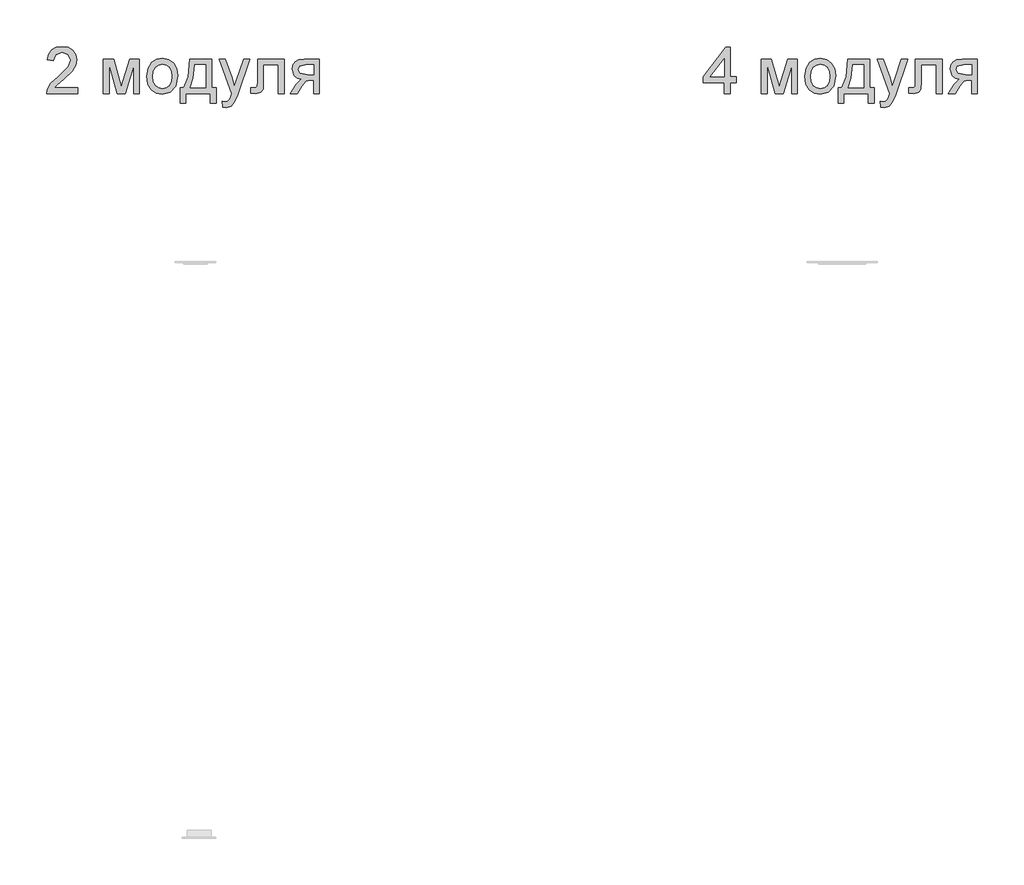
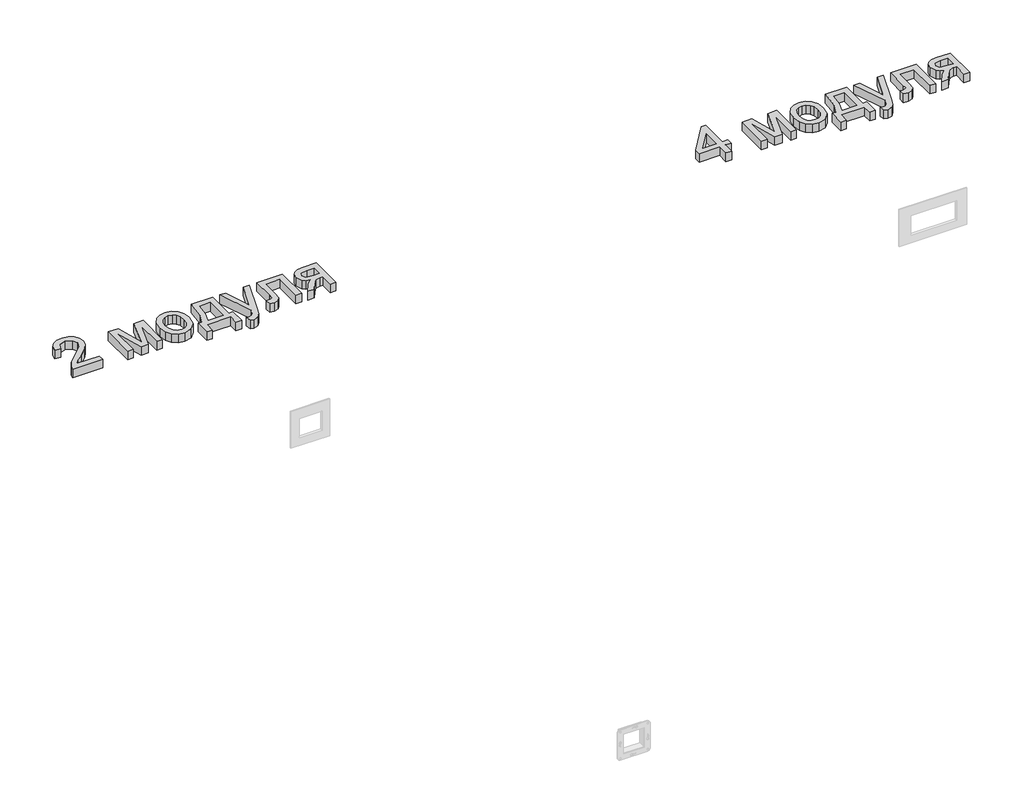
# One storey, part 48 of 48: 2 proxies.
"""IFC4 building model written with IfcOpenShell, lengths in millimetres."""

from ifc_helpers import new_model, si_unit, origin, origin_with_axes, place, context, project, spatial, polyline, outline, extrude, element, save

model = new_model("IFC4")

# Units and contexts
model_context = context("Model", 3, world=origin())
ifc_project = project(units=[si_unit("LENGTHUNIT", "METRE", prefix="MILLI")], contexts=[model_context])

# Site, building, storey
site = spatial("IfcSite", under=ifc_project)
building = spatial("IfcBuilding", under=site)
storey = spatial("IfcBuildingStorey", under=building, Name="Этаж 01", Elevation=0.0)

# Proxies
placement = place(None, origin())
element("IfcBuildingElementProxy", 1, Name="100 мм Arial", ObjectType="100 мм Arial", at=placement, inside=storey, context=model_context, shape_type="SweptSolid", body=[
    extrude(outline(polyline([(77045.8481443, 4264.0826436), (77045.8481443, 4251.5256049), (76979.9236908, 4251.5256049), (76981.2725914, 4260.1830945), (76988.9000115, 4273.5126854), (77004.6208354, 4288.0685497), (77026.3013476, 4308.9887725), (77031.7214757, 4323.213543), (77026.607916, 4334.7282494), (77013.2537995, 4339.4248762), (76999.3355974, 4334.838614), (76994.0503594, 4322.1589479), (76981.4933206, 4323.7285778), (76984.5375441, 4335.874815), (76991.1195662, 4344.7469024), (77000.8960302, 4350.1731619), (77013.5235797, 4351.981915), (77026.2430997, 4349.9708268), (77036.0011696, 4343.9375621), (77042.2091783, 4334.9244532), (77044.2785145, 4323.9738324), (77042.046697, 4312.0667185), (77034.6277435, 4299.7549344), (77016.6383139, 4282.5503198), (77002.1928142, 4270.4715276), (76996.5274315, 4264.0826436), (77045.8481443, 4264.0826436)])), origin_with_axes(), (0.0, 0.0, 1.0), 20.0),
    extrude(outline(polyline([(77100.7851889, 4325.2982076), (77122.3921248, 4325.2982076), (77139.0449164, 4266.2408847), (77156.9975578, 4325.2982076), (77177.6970514, 4325.2982076), (77177.6970514, 4251.5256049), (77165.1400126, 4251.5256049), (77165.1400126, 4310.9262844), (77147.0892694, 4251.5256049), (77130.608156, 4251.5256049), (77113.3422277, 4313.7712384), (77113.3422277, 4251.5256049), (77100.7851889, 4251.5256049), (77100.7851889, 4325.2982076)])), origin_with_axes(), (0.0, 0.0, 1.0), 20.0),
    extrude(outline(polyline([(77193.3933499, 4288.4119062), (77196.1095453, 4306.1990007), (77204.2581314, 4318.7008572), (77214.3258354, 4324.8260924), (77226.3801021, 4326.8678375), (77239.5717373, 4324.3815683), (77250.1084908, 4316.9227609), (77257.0154752, 4305.0800263), (77259.3178034, 4289.4419758), (77255.246576, 4267.099276), (77243.388513, 4254.4563981), (77226.3801021, 4249.955975), (77213.0290513, 4252.4330471), (77202.5045606, 4259.8642634), (77195.6711525, 4271.9553183), (77193.3933499, 4288.4119062)]), holes=[polyline([(77205.9503886, 4288.4364317), (77207.4035225, 4277.0719437), (77211.7629241, 4268.9754742), (77218.3234864, 4264.1286289), (77226.3801021, 4262.5130138), (77234.3999296, 4264.1378259), (77240.9482291, 4269.0122624), (77245.3076307, 4277.2160309), (77246.7607646, 4288.8288392), (77245.2984337, 4299.8622333), (77240.9114409, 4307.8483383), (77234.3539443, 4312.6951836), (77226.3801021, 4314.3107987), (77218.3234864, 4312.701315), (77211.7629241, 4307.8728638), (77207.4035225, 4299.7947883), (77205.9503886, 4288.4364317)])]), origin_with_axes(), (0.0, 0.0, 1.0), 20.0),
    extrude(outline(polyline([(77284.4318809, 4325.2982076), (77331.5207763, 4325.2982076), (77331.5207763, 4264.0826436), (77340.9385554, 4264.0826436), (77340.9385554, 4231.1204169), (77328.3815166, 4231.1204169), (77328.3815166, 4251.5256049), (77276.5837317, 4251.5256049), (77276.5837317, 4231.1204169), (77264.0266929, 4231.1204169), (77264.0266929, 4264.0826436), (77271.8748422, 4264.0826436), (77281.5746641, 4288.0317615), (77284.4318809, 4325.2982076)]), holes=[polyline([(77295.4192899, 4312.7411689), (77292.4762339, 4284.1322124), (77286.0015108, 4264.0826436), (77318.9637375, 4264.0826436), (77318.9637375, 4312.7411689), (77295.4192899, 4312.7411689)])]), origin_with_axes(), (0.0, 0.0, 1.0), 20.0),
    extrude(outline(polyline([(77355.065224, 4223.2722676), (77353.4955942, 4235.3633225), (77359.8722154, 4234.2596766), (77365.8319037, 4235.6453654), (77369.4861982, 4239.5081264), (77372.9197635, 4248.7542272), (77373.9007822, 4251.795385), (77347.2170748, 4325.2982076), (77360.4608266, 4325.2982076), (77374.6120207, 4284.3406788), (77379.5416394, 4267.9576673), (77384.4712581, 4282.4276925), (77399.0148597, 4325.2982076), (77412.1605097, 4325.2982076), (77386.4823464, 4249.7597713), (77379.8114195, 4233.3767598), (77372.527356, 4224.5230664), (77362.741695, 4221.7026378), (77355.065224, 4223.2722676)])), origin_with_axes(), (0.0, 0.0, 1.0), 20.0),
    extrude(outline(polyline([(77428.8378268, 4325.2982076), (77485.3445012, 4325.2982076), (77485.3445012, 4251.5991813), (77472.7874625, 4251.5991813), (77472.7874625, 4312.7411689), (77441.3948655, 4312.7411689), (77441.3948655, 4277.5471247), (77440.5487369, 4261.3112659), (77435.9011611, 4254.4563981), (77424.9137522, 4251.5256049), (77414.7111582, 4252.163267), (77414.7111582, 4264.0826436), (77420.3274899, 4264.0826436), (77426.0051354, 4264.8551958), (77428.273741, 4267.3077425), (77428.8378268, 4278.2583632), (77428.8378268, 4325.2982076)])), origin_with_axes(), (0.0, 0.0, 1.0), 20.0),
    extrude(outline(polyline([(77560.6867338, 4325.2982076), (77560.6867338, 4251.5256049), (77548.1296951, 4251.5256049), (77548.1296951, 4279.7789421), (77541.28709, 4279.7789421), (77531.9674127, 4278.1847868), (77523.2118213, 4267.467158), (77513.205431, 4251.5256049), (77498.6863549, 4251.5256049), (77511.2924446, 4271.6855382), (77521.9855479, 4282.1333869), (77513.4016347, 4284.7637431), (77507.36837, 4289.7608069), (77502.6104295, 4303.9855774), (77504.2352417, 4312.5817533), (77509.1096781, 4319.3875702), (77517.0620606, 4323.8205483), (77527.9207108, 4325.2982076), (77560.6867338, 4325.2982076)]), holes=[polyline([(77548.1296951, 4312.7411689), (77531.5750053, 4312.7411689), (77518.1718379, 4309.8349011), (77515.1674683, 4303.0290842), (77519.594315, 4294.9234176), (77535.2783507, 4292.3359809), (77548.1296951, 4292.3359809), (77548.1296951, 4312.7411689)])]), origin_with_axes(), (0.0, 0.0, 1.0), 20.0),
])
element("IfcBuildingElementProxy", 2, Name="100 мм Arial", ObjectType="100 мм Arial", at=placement, inside=storey, context=model_context, shape_type="SweptSolid", body=[
    extrude(outline(polyline([(78422.3036966, 4251.5256049), (78422.3036966, 4275.0700526), (78376.7844311, 4275.0700526), (78376.7844311, 4287.6270913), (78425.4429563, 4350.4122852), (78434.8607354, 4350.4122852), (78434.8607354, 4287.6270913), (78447.4177742, 4287.6270913), (78447.4177742, 4275.0700526), (78434.8607354, 4275.0700526), (78434.8607354, 4251.5256049), (78422.3036966, 4251.5256049)]), holes=[polyline([(78422.3036966, 4287.6270913), (78422.3036966, 4326.4263791), (78392.2354749, 4287.6270913), (78422.3036966, 4287.6270913)])]), origin_with_axes(), (0.0, 0.0, 1.0), 20.0),
    extrude(outline(polyline([(78500.7851889, 4325.2982076), (78522.3921248, 4325.2982076), (78539.0449164, 4266.2408847), (78556.9975578, 4325.2982076), (78577.6970514, 4325.2982076), (78577.6970514, 4251.5256049), (78565.1400126, 4251.5256049), (78565.1400126, 4310.9262844), (78547.0892694, 4251.5256049), (78530.608156, 4251.5256049), (78513.3422277, 4313.7712384), (78513.3422277, 4251.5256049), (78500.7851889, 4251.5256049), (78500.7851889, 4325.2982076)])), origin_with_axes(), (0.0, 0.0, 1.0), 20.0),
    extrude(outline(polyline([(78593.3933499, 4288.4119062), (78596.1095453, 4306.1990007), (78604.2581314, 4318.7008572), (78614.3258354, 4324.8260924), (78626.3801021, 4326.8678375), (78639.5717373, 4324.3815683), (78650.1084908, 4316.9227609), (78657.0154752, 4305.0800263), (78659.3178034, 4289.4419758), (78655.246576, 4267.099276), (78643.388513, 4254.4563981), (78626.3801021, 4249.955975), (78613.0290513, 4252.4330471), (78602.5045606, 4259.8642634), (78595.6711525, 4271.9553183), (78593.3933499, 4288.4119062)]), holes=[polyline([(78605.9503886, 4288.4364317), (78607.4035225, 4277.0719437), (78611.7629241, 4268.9754742), (78618.3234864, 4264.1286289), (78626.3801021, 4262.5130138), (78634.3999296, 4264.1378259), (78640.9482291, 4269.0122624), (78645.3076307, 4277.2160309), (78646.7607646, 4288.8288392), (78645.2984337, 4299.8622333), (78640.9114409, 4307.8483383), (78634.3539443, 4312.6951836), (78626.3801021, 4314.3107987), (78618.3234864, 4312.701315), (78611.7629241, 4307.8728638), (78607.4035225, 4299.7947883), (78605.9503886, 4288.4364317)])]), origin_with_axes(), (0.0, 0.0, 1.0), 20.0),
    extrude(outline(polyline([(78684.4318809, 4325.2982076), (78731.5207763, 4325.2982076), (78731.5207763, 4264.0826436), (78740.9385554, 4264.0826436), (78740.9385554, 4231.1204169), (78728.3815166, 4231.1204169), (78728.3815166, 4251.5256049), (78676.5837317, 4251.5256049), (78676.5837317, 4231.1204169), (78664.0266929, 4231.1204169), (78664.0266929, 4264.0826436), (78671.8748422, 4264.0826436), (78681.5746641, 4288.0317615), (78684.4318809, 4325.2982076)]), holes=[polyline([(78695.4192899, 4312.7411689), (78692.4762339, 4284.1322124), (78686.0015108, 4264.0826436), (78718.9637375, 4264.0826436), (78718.9637375, 4312.7411689), (78695.4192899, 4312.7411689)])]), origin_with_axes(), (0.0, 0.0, 1.0), 20.0),
    extrude(outline(polyline([(78755.065224, 4223.2722676), (78753.4955942, 4235.3633225), (78759.8722154, 4234.2596766), (78765.8319037, 4235.6453654), (78769.4861982, 4239.5081264), (78772.9197635, 4248.7542272), (78773.9007822, 4251.795385), (78747.2170748, 4325.2982076), (78760.4608266, 4325.2982076), (78774.6120207, 4284.3406788), (78779.5416394, 4267.9576673), (78784.4712581, 4282.4276925), (78799.0148597, 4325.2982076), (78812.1605097, 4325.2982076), (78786.4823464, 4249.7597713), (78779.8114195, 4233.3767598), (78772.527356, 4224.5230664), (78762.741695, 4221.7026378), (78755.065224, 4223.2722676)])), origin_with_axes(), (0.0, 0.0, 1.0), 20.0),
    extrude(outline(polyline([(78828.8378268, 4325.2982076), (78885.3445012, 4325.2982076), (78885.3445012, 4251.5991813), (78872.7874625, 4251.5991813), (78872.7874625, 4312.7411689), (78841.3948655, 4312.7411689), (78841.3948655, 4277.5471247), (78840.5487369, 4261.3112659), (78835.9011611, 4254.4563981), (78824.9137522, 4251.5256049), (78814.7111582, 4252.163267), (78814.7111582, 4264.0826436), (78820.3274899, 4264.0826436), (78826.0051354, 4264.8551958), (78828.273741, 4267.3077425), (78828.8378268, 4278.2583632), (78828.8378268, 4325.2982076)])), origin_with_axes(), (0.0, 0.0, 1.0), 20.0),
    extrude(outline(polyline([(78960.6867338, 4325.2982076), (78960.6867338, 4251.5256049), (78948.1296951, 4251.5256049), (78948.1296951, 4279.7789421), (78941.28709, 4279.7789421), (78931.9674127, 4278.1847868), (78923.2118213, 4267.467158), (78913.205431, 4251.5256049), (78898.6863549, 4251.5256049), (78911.2924446, 4271.6855382), (78921.9855479, 4282.1333869), (78913.4016347, 4284.7637431), (78907.36837, 4289.7608069), (78902.6104295, 4303.9855774), (78904.2352417, 4312.5817533), (78909.1096781, 4319.3875702), (78917.0620606, 4323.8205483), (78927.9207108, 4325.2982076), (78960.6867338, 4325.2982076)]), holes=[polyline([(78948.1296951, 4312.7411689), (78931.5750053, 4312.7411689), (78918.1718379, 4309.8349011), (78915.1674683, 4303.0290842), (78919.594315, 4294.9234176), (78935.2783507, 4292.3359809), (78948.1296951, 4292.3359809), (78948.1296951, 4312.7411689)])]), origin_with_axes(), (0.0, 0.0, 1.0), 20.0),
])

save(model, "model.ifc")
